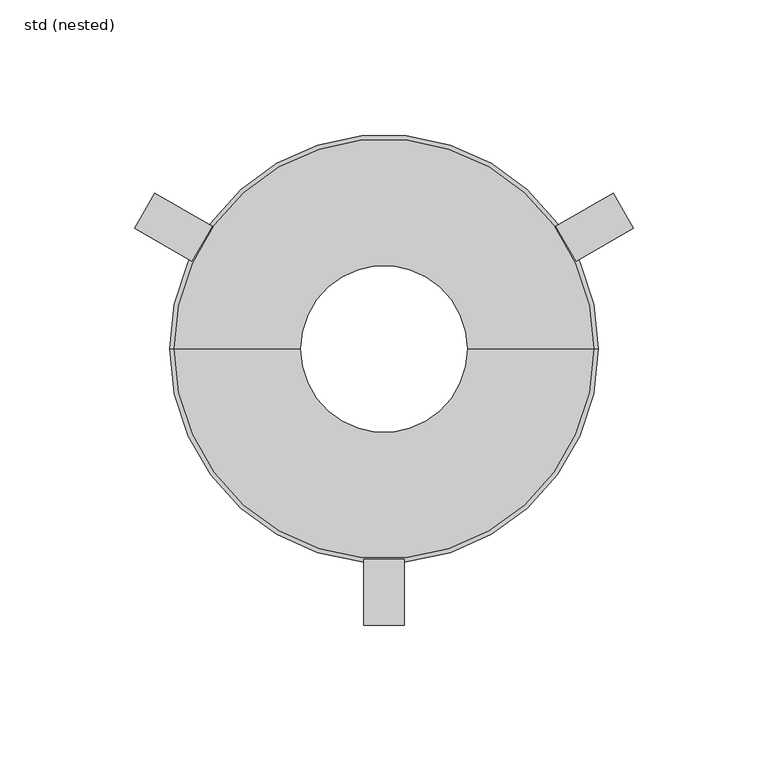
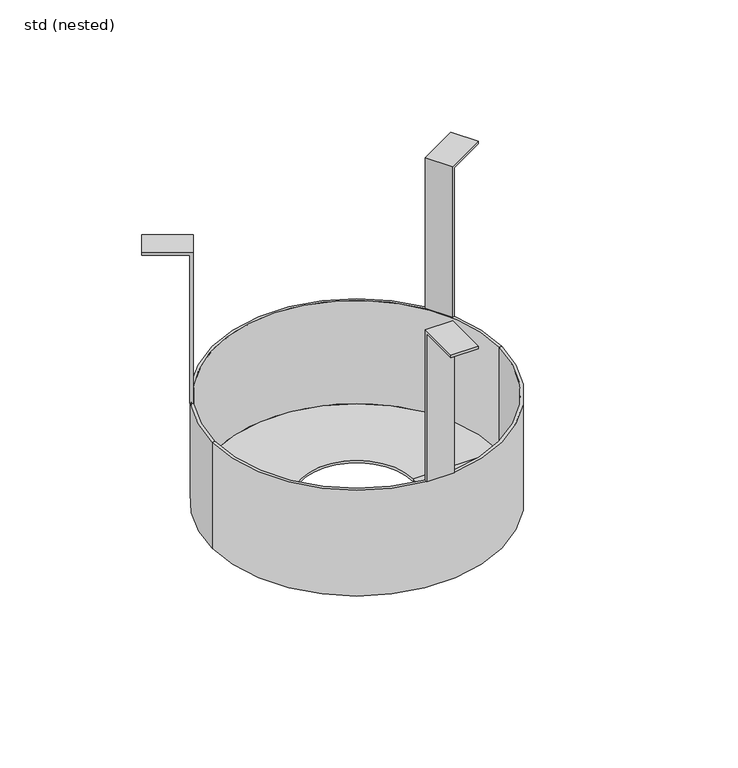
"""IFC4 building model written with IfcOpenShell, lengths in millimetres: damper geometry, ZZZ_do_not_use_PIA_GEN_UN_fit in installation set_ACO : std (nested)."""

import ifcopenshell
import ifcopenshell.guid

model = None  # the IFC model being written
_history = None  # IfcOwnerHistory: only IFC2X3 demands one
_inside = {}  # id of a spatial element -> (the spatial element, [elements in it])
_under = {}  # id of a project, library or spatial element -> (it, [spatial elements below it])
_declared = {}  # id of a project -> (the project, [libraries it declares])
_typed = {}  # id of a type object -> (the type object, [elements of that type])
_made_of = {}  # id of a material, layer set ... -> (it, [elements and type objects made of it])


def new_model(schema):
    """Start an empty IFC model of exactly this schema.

    Asked for "IFC4X3", IfcOpenShell would pick the latest addendum, in which some entities
    have other attributes; the version numbers below select the first issue.
    IFC2X3 requires an IfcOwnerHistory on every rooted entity: one is made here for all.
    """
    global model, _history
    if schema == "IFC4X3":
        model = ifcopenshell.file(schema_version=(4, 3, 0, 0))
    else:
        model = ifcopenshell.file(schema=schema)
    _inside.clear()
    _under.clear()
    _declared.clear()
    _typed.clear()
    _made_of.clear()
    _history = None
    if model.schema == "IFC2X3":
        org = make("IfcOrganization", Name="unknown")
        user = make(
            "IfcPersonAndOrganization",
            ThePerson=make("IfcPerson", FamilyName="unknown"),
            TheOrganization=org,
        )
        app = make(
            "IfcApplication",
            ApplicationDeveloper=org,
            Version="unknown",
            ApplicationFullName="unknown",
            ApplicationIdentifier="unknown",
        )
        _history = make(
            "IfcOwnerHistory",
            OwningUser=user,
            OwningApplication=app,
            ChangeAction="ADDED",
            CreationDate=0,
        )
    return model


def make(cls, **values):
    """One entity of the class cls with the attributes given. An attribute that is None is left unset."""
    return model.create_entity(
        cls, **{name: value for name, value in values.items() if value is not None}
    )


def rooted(cls, **values):
    """An entity with a GlobalId (a new one), such as an element, a storey or a relation."""
    return make(cls, GlobalId=ifcopenshell.guid.new(), OwnerHistory=_history, **values)


def si_unit(unit_type, name, prefix=None):
    """IfcSIUnit, for example si_unit("LENGTHUNIT", "METRE", prefix="MILLI")."""
    return make("IfcSIUnit", UnitType=unit_type, Prefix=prefix, Name=name)


def assignment(units):
    """IfcUnitAssignment: the units of a project."""
    return None if units is None else make("IfcUnitAssignment", Units=units)


def point(xyz):
    """IfcCartesianPoint."""
    return None if xyz is None else make("IfcCartesianPoint", Coordinates=xyz)


def direction(xyz):
    """IfcDirection."""
    return None if xyz is None else make("IfcDirection", DirectionRatios=xyz)


def frame(location, z_axis=None, x_axis=None):
    """IfcAxis2Placement3D, a coordinate frame: its origin and axes. An axis left out is left unset."""
    return make(
        "IfcAxis2Placement3D",
        Location=point(location),
        Axis=direction(z_axis),
        RefDirection=direction(x_axis),
    )


def origin():
    """The frame at (0, 0, 0) with its axes left unset."""
    return frame((0.0, 0.0, 0.0))


def place(relative_to, where):
    """IfcLocalPlacement: puts the frame where relative to a parent placement (None: the world)."""
    return make(
        "IfcLocalPlacement", PlacementRelTo=relative_to, RelativePlacement=where
    )


def context(
    kind, dimensions, precision=None, world=None, true_north=None, identifier=None
):
    """IfcGeometricRepresentationContext, for example the 3D "Model" context."""
    return make(
        "IfcGeometricRepresentationContext",
        ContextIdentifier=identifier,
        ContextType=kind,
        CoordinateSpaceDimension=dimensions,
        Precision=precision,
        WorldCoordinateSystem=world,
        TrueNorth=true_north,
    )


def project(units=None, contexts=None):
    """IfcProject with its units and contexts."""
    return rooted(
        "IfcProject",
        Name="project",
        RepresentationContexts=contexts,
        UnitsInContext=assignment(units),
    )


def spatial(cls, under=None, at=None, **own):
    """A site, building, storey or space (cls), placed at a placement, below another one or the project."""
    s = rooted(cls, ObjectPlacement=at, **own)
    if under is not None:
        _under.setdefault(under.id(), (under, []))[1].append(s)
    return s


def polyline(points):
    """IfcPolyline through the points."""
    return make("IfcPolyline", Points=[point(p) for p in points])


def circle_curve(where, radius):
    """IfcCircle in the frame where."""
    return make("IfcCircle", Position=where, Radius=radius)


def outline(outer, holes=None, kind="AREA"):
    """IfcArbitraryClosedProfileDef: a profile drawn as a closed curve; with holes, ...WithVoids."""
    if holes is None:
        return make("IfcArbitraryClosedProfileDef", ProfileType=kind, OuterCurve=outer)
    return make(
        "IfcArbitraryProfileDefWithVoids",
        ProfileType=kind,
        OuterCurve=outer,
        InnerCurves=holes,
    )


def extrude(swept, where, along, depth):
    """IfcExtrudedAreaSolid: the profile swept, set in the frame where, extruded along a direction by depth."""
    return make(
        "IfcExtrudedAreaSolid",
        SweptArea=swept,
        Position=where,
        ExtrudedDirection=direction(along),
        Depth=depth,
    )


def shape(context_of_items, identifier, shape_type, items):
    """IfcShapeRepresentation: the items that make up one representation, for example the "Body"."""
    return make(
        "IfcShapeRepresentation",
        ContextOfItems=context_of_items,
        RepresentationIdentifier=identifier,
        RepresentationType=shape_type,
        Items=items,
    )


def source(mapping_origin, context_of_items, identifier, shape_type, items):
    """IfcRepresentationMap: a shape defined once, which mapped items show again and again."""
    return make(
        "IfcRepresentationMap",
        MappingOrigin=mapping_origin,
        MappedRepresentation=shape(context_of_items, identifier, shape_type, items),
    )


def transform(
    local_origin,
    x_axis=None,
    y_axis=None,
    z_axis=None,
    scale=None,
    scale2=None,
    scale3=None,
    uniform=True,
):
    """IfcCartesianTransformationOperator3D, or its non-uniform kind. x_axis, y_axis, z_axis: its Axis1, 2, 3."""
    if uniform:
        return make(
            "IfcCartesianTransformationOperator3D",
            Axis1=direction(x_axis),
            Axis2=direction(y_axis),
            LocalOrigin=point(local_origin),
            Scale=scale,
            Axis3=direction(z_axis),
        )
    return make(
        "IfcCartesianTransformationOperator3DnonUniform",
        Axis1=direction(x_axis),
        Axis2=direction(y_axis),
        LocalOrigin=point(local_origin),
        Scale=scale,
        Axis3=direction(z_axis),
        Scale2=scale2,
        Scale3=scale3,
    )


def mapped(mapping_source, mapping_target):
    """IfcMappedItem: shows the shape of a source again, moved by a transform."""
    return make(
        "IfcMappedItem", MappingSource=mapping_source, MappingTarget=mapping_target
    )


def made_of(thing, what):
    """Note that an element or type object is made of a material, layer set ...; save() writes the relation."""
    if what is not None:
        _made_of.setdefault(what.id(), (what, []))[1].append(thing)
    return thing


def element(
    cls,
    number,
    at=None,
    inside=None,
    cuts=None,
    type_object=None,
    material=None,
    context=None,
    identifier="Body",
    shape_type=None,
    held_by="IfcProductDefinitionShape",
    body=None,
    shapes=None,
    **own,
):
    """One element of the class cls, such as IfcWall. Its Tag is "e" and its number.

    at: its placement. inside: the storey or other place that contains it. cuts: it is an
    opening in that element (IfcRelVoidsElement). A single representation is given by context,
    identifier, shape_type and body (its items); several are given by shapes. held_by: the class
    of the entity that holds the representations. save() writes the other relations.
    """
    e = rooted(cls, Tag="e%d" % number, ObjectPlacement=at, **own)
    if body is not None:
        shapes = [shape(context, identifier, shape_type, body)]
    if shapes is not None:
        e.Representation = make(held_by, Representations=shapes)
    if inside is not None:
        _inside.setdefault(inside.id(), (inside, []))[1].append(e)
    if cuts is not None:
        rooted(
            "IfcRelVoidsElement", RelatingBuildingElement=cuts, RelatedOpeningElement=e
        )
    if type_object is not None:
        _typed.setdefault(type_object.id(), (type_object, []))[1].append(e)
    return made_of(e, material)


def aggregate(whole, parts):
    """IfcRelAggregates: a whole, such as a stair, and the parts it consists of."""
    return rooted("IfcRelAggregates", RelatingObject=whole, RelatedObjects=parts)


def save(model, path):
    """Write the relations noted so far, then the file.

    IfcRelAggregates (storeys below a building ...), IfcRelContainedInSpatialStructure (elements
    in a storey), IfcRelDefinesByType, IfcRelAssociatesMaterial and IfcRelDeclares: one each for
    every whole, place, type object, material and project.
    """
    for whole, parts in _under.values():
        aggregate(whole, parts)
    for where, things in _inside.values():
        rooted(
            "IfcRelContainedInSpatialStructure",
            RelatedElements=things,
            RelatingStructure=where,
        )
    for kind, things in _typed.values():
        rooted("IfcRelDefinesByType", RelatedObjects=things, RelatingType=kind)
    for what, things in _made_of.values():
        rooted("IfcRelAssociatesMaterial", RelatedObjects=things, RelatingMaterial=what)
    for by, libraries in _declared.values():
        rooted("IfcRelDeclares", RelatingContext=by, RelatedDefinitions=libraries)
    model.write(path)


def plane_surface(at):
    """IfcPlane: the flat surface through the origin of the frame at, square to its z axis."""
    return make("IfcPlane", Position=at)


def cylinder_surface(at, radius):
    """IfcCylindricalSurface: all points at the distance radius from the z axis of the frame at."""
    return make("IfcCylindricalSurface", Position=at, Radius=radius)


def revolved_surface(curve, axis_point, axis_direction):
    """IfcSurfaceOfRevolution: the curve turned about the line through axis_point along axis_direction."""
    return make(
        "IfcSurfaceOfRevolution",
        SweptCurve=make("IfcArbitraryOpenProfileDef", ProfileType="CURVE", Curve=curve),
        AxisPosition=make("IfcAxis1Placement", Location=point(axis_point), Axis=direction(axis_direction)),
    )


def advanced_brep(points, edges, surfaces, faces):
    """IfcAdvancedBrep: a solid bounded by faces that lie on surfaces and meet in shared edges.

    An edge is (start, end): straight between two places in points (the first is 0);
    or (start, end, curve); or (start, end, curve, False) where it runs against its curve.
    A face is (place in surfaces, loops), or (place, loops, False) where it looks against
    its surface's normal. A loop lists edges by number (the first is 1), with a minus sign
    where the edge is run from its end to its start. The first loop is the outer one.
    """
    corners = [point(p) for p in points]
    vertices = [make("IfcVertexPoint", VertexGeometry=c) for c in corners]
    made = []
    for start, end, *more in edges:
        made.append(
            make(
                "IfcEdgeCurve",
                EdgeStart=vertices[start],
                EdgeEnd=vertices[end],
                EdgeGeometry=more[0] if more else make("IfcPolyline", Points=[corners[start], corners[end]]),
                SameSense=more[1] if len(more) > 1 else True,
            )
        )
    hull = []
    for where, loops, *sense in faces:
        bounds = []
        for j, loop in enumerate(loops):
            ring = [make("IfcOrientedEdge", EdgeElement=made[abs(k) - 1], Orientation=k > 0) for k in loop]
            bounds.append(
                make(
                    "IfcFaceOuterBound" if j == 0 else "IfcFaceBound",
                    Bound=make("IfcEdgeLoop", EdgeList=ring),
                    Orientation=True,
                )
            )
        hull.append(make("IfcAdvancedFace", Bounds=bounds, FaceSurface=surfaces[where], SameSense=sense[0] if sense else True))
    return make("IfcAdvancedBrep", Outer=make("IfcClosedShell", CfsFaces=hull))


def std_nested_a14a9c0f(model_context):
    return source(origin(), model_context, "Body", "SolidModel", [
        extrude(outline(polyline([(0.0, -1.5), (0.0, 0.0), (24.5, 0.0), (24.5, -87.5), (23.0, -87.5), (23.0, -1.5), (0.0, -1.5)])), frame((92.5176039, 44.7548095, 0.0), z_axis=(-0.4999999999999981, 0.8660254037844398, 0.0), x_axis=(-0.8660254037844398, -0.4999999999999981, 0.0)), (0.0, 0.0, 1.0), 15.0),
        extrude(outline(polyline([(-102.5, -1.5), (-102.5, 0.0), (-78.0, 0.0), (-78.0, -87.5), (-79.5, -87.5), (-79.5, -1.5), (-102.5, -1.5)])), frame((-7.5, 0.0, 0.0), z_axis=(1.0, 0.0, 0.0), x_axis=(0.0, 1.0, 0.0)), (0.0, 0.0, 1.0), 15.0),
        extrude(outline(polyline([(0.0, -1.5), (0.0, 0.0), (23.0, 0.0), (23.0, 86.0), (24.5, 86.0), (24.5, -1.5), (0.0, -1.5)])), frame((-92.5176039, 44.7548095, -1.5), z_axis=(0.4999999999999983, 0.8660254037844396, 0.0), x_axis=(0.8660254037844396, -0.4999999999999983, 0.0)), (0.0, 0.0, 1.0), 15.0),
        advanced_brep(
        [(78.0, 0.0, -147.5), (-78.0, 0.0, -147.5), (-31.0, 0.0, -147.5), (31.0, 0.0, -147.5), (78.0, 0.0, -87.5), (-78.0, 0.0, -87.5), (79.5, 0.0, -87.5), (-79.5, 0.0, -87.5), (79.5, 0.0, -149.0), (-79.5, 0.0, -149.0), (31.0, 0.0, -149.0), (-31.0, 0.0, -149.0)],
        [
            (0, 1, circle_curve(frame((0.0, 0.0, -147.5), z_axis=(0.0, 0.0, 1.0), x_axis=(-1.0, 0.0, 0.0)), 78.0)),
            (1, 2),
            (2, 3, circle_curve(frame((0.0, 0.0, -147.5), z_axis=(0.0, 0.0, -1.0), x_axis=(-1.0, 0.0, 0.0)), 31.0)),
            (3, 0),
            (1, 0, circle_curve(frame((0.0, 0.0, -147.5), z_axis=(0.0, 0.0, 1.0), x_axis=(-1.0, 0.0, 0.0)), 78.0)),
            (3, 2, circle_curve(frame((0.0, 0.0, -147.5), z_axis=(0.0, 0.0, -1.0), x_axis=(-1.0, 0.0, 0.0)), 31.0)),
            (4, 5, circle_curve(frame((0.0, 0.0, -87.5), z_axis=(0.0, 0.0, 1.0), x_axis=(-1.0, 0.0, 0.0)), 78.0)),
            (5, 1),
            (0, 4),
            (5, 4, circle_curve(frame((0.0, 0.0, -87.5), z_axis=(0.0, 0.0, 1.0), x_axis=(-1.0, 0.0, 0.0)), 78.0)),
            (6, 7, circle_curve(frame((0.0, 0.0, -87.5), z_axis=(0.0, 0.0, 1.0), x_axis=(-1.0, 0.0, 0.0)), 79.5)),
            (7, 5),
            (4, 6),
            (7, 6, circle_curve(frame((0.0, 0.0, -87.5), z_axis=(0.0, 0.0, 1.0), x_axis=(-1.0, 0.0, 0.0)), 79.5)),
            (8, 9, circle_curve(frame((0.0, 0.0, -149.0), z_axis=(0.0, 0.0, 1.0), x_axis=(-1.0, 0.0, 0.0)), 79.5)),
            (9, 7),
            (6, 8),
            (9, 8, circle_curve(frame((0.0, 0.0, -149.0), z_axis=(0.0, 0.0, 1.0), x_axis=(-1.0, 0.0, 0.0)), 79.5)),
            (10, 11, circle_curve(frame((0.0, 0.0, -149.0), z_axis=(0.0, 0.0, 1.0), x_axis=(-1.0, 0.0, 0.0)), 31.0)),
            (11, 9),
            (8, 10),
            (11, 10, circle_curve(frame((0.0, 0.0, -149.0), z_axis=(0.0, 0.0, 1.0), x_axis=(-1.0, 0.0, 0.0)), 31.0)),
            (2, 11),
            (10, 3),
        ],
        [
            plane_surface(frame((0.0, 0.0, -147.5), z_axis=(0.0, 0.0, 1.0), x_axis=(-1.0, 0.0, 0.0))),
            revolved_surface(polyline([(-78.0, 0.0, -147.5), (-78.0, 0.0, -87.5)]), (0.0, 0.0, -50.1604838), (0.0, 0.0, -1.0)),
            plane_surface(frame((0.0, 0.0, -87.5), z_axis=(0.0, 0.0, 1.0), x_axis=(-1.0, 0.0, 0.0))),
            cylinder_surface(frame((0.0, 0.0, -50.1604838), z_axis=(0.0, 0.0, -1.0), x_axis=(-1.0, 0.0, 0.0)), 79.5),
            plane_surface(frame((0.0, 0.0, -149.0), z_axis=(0.0, 0.0, -1.0), x_axis=(-1.0, 0.0, 0.0))),
            revolved_surface(polyline([(-31.0, 0.0, -149.0), (-31.0, 0.0, -147.5)]), (0.0, 0.0, -50.1604838), (0.0, 0.0, -1.0)),
        ],
        [
            (0, [[1, 2, 3, 4]]),
            (0, [[5, -4, 6, -2]]),
            (1, [[7, 8, -1, 9]]),
            (1, [[10, -9, -5, -8]]),
            (2, [[11, 12, -7, 13]]),
            (2, [[14, -13, -10, -12]]),
            (3, [[15, 16, -11, 17]]),
            (3, [[18, -17, -14, -16]]),
            (4, [[19, 20, -15, 21]]),
            (4, [[22, -21, -18, -20]]),
            (5, [[-3, 23, -19, 24]]),
            (5, [[-6, -24, -22, -23]]),
        ],
    ),
    ])


if __name__ == "__main__":
    model = new_model("IFC4")
    model_context = context("Model", 3, world=origin())
    ifc_project = project(units=[si_unit("LENGTHUNIT", "METRE", prefix="MILLI")], contexts=[model_context])
    site = spatial("IfcSite", under=ifc_project)
    building = spatial("IfcBuilding", under=site)
    placement = place(None, origin())
    std_nested_shape = std_nested_a14a9c0f(model_context)
    element("IfcDamper", 1, ObjectType="ZZZ_do_not_use_PIA_GEN_UN_fit in installation set_ACO : std (nested)", at=placement, inside=building, context=model_context, shape_type="MappedRepresentation", body=[
        mapped(std_nested_shape, transform((0.0, 0.0, 0.0), x_axis=(1.0, 0.0, 0.0), y_axis=(0.0, 1.0, 0.0), z_axis=(0.0, 0.0, 1.0))),
    ])
    save(model, "model.ifc")
